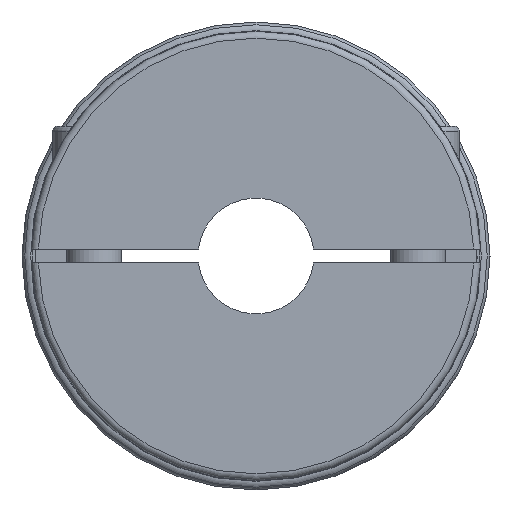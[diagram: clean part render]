
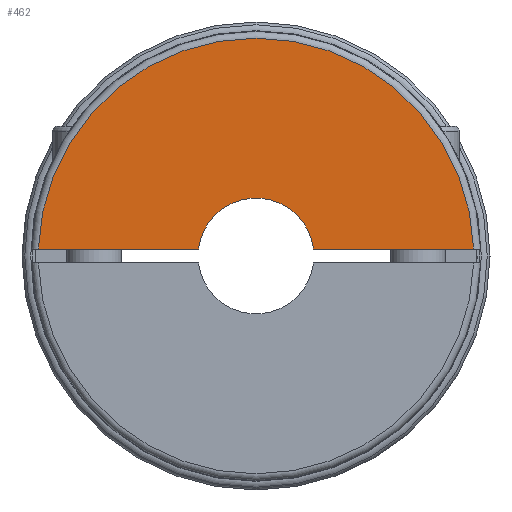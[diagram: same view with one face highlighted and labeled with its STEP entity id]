
A CAD part, left-side view. The second image highlights one B-rep face of the part: STEP entity #462.
In plain terms, the highlighted planar face has unit normal (-1, 0, 0).
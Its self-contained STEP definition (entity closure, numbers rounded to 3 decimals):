
#462 = ADVANCED_FACE( '', ( #1125 ), #1126, .T. );
#1125 = FACE_OUTER_BOUND( '', #2012, .T. );
#1126 = PLANE( '', #2013 );
#2012 = EDGE_LOOP( '', ( #3221, #3222, #3223, #3224 ) );
#2013 = AXIS2_PLACEMENT_3D( '', #3225, #3226, #3227 );
#3221 = ORIENTED_EDGE( '', *, *, #4364, .F. );
#3222 = ORIENTED_EDGE( '', *, *, #4544, .T. );
#3223 = ORIENTED_EDGE( '', *, *, #4545, .F. );
#3224 = ORIENTED_EDGE( '', *, *, #4285, .T. );
#3225 = CARTESIAN_POINT( '', ( -1.5, 0., 12. ) );
#3226 = DIRECTION( '', ( -1., 0., 0. ) );
#3227 = DIRECTION( '', ( 0., 0., 1. ) );
#4285 = EDGE_CURVE( '', #4942, #4946, #4948, .T. );
#4364 = EDGE_CURVE( '', #5078, #4946, #5080, .T. );
#4544 = EDGE_CURVE( '', #5078, #5355, #5356, .T. );
#4545 = EDGE_CURVE( '', #4942, #5355, #5357, .T. );
#4942 = VERTEX_POINT( '', #5860 );
#4946 = VERTEX_POINT( '', #5877 );
#4948 = CIRCLE( '', #5892, 47. );
#5078 = VERTEX_POINT( '', #6123 );
#5080 = LINE( '', #6126, #6127 );
#5355 = VERTEX_POINT( '', #6803 );
#5356 = CIRCLE( '', #6804, 12.5 );
#5357 = LINE( '', #6805, #6806 );
#5860 = CARTESIAN_POINT( '', ( -1.5, -46.976, 1.5 ) );
#5877 = CARTESIAN_POINT( '', ( -1.5, 46.976, 1.5 ) );
#5892 = AXIS2_PLACEMENT_3D( '', #7668, #7669, #7670 );
#6123 = CARTESIAN_POINT( '', ( -1.5, 12.41, 1.5 ) );
#6126 = CARTESIAN_POINT( '', ( -1.5, 0., 1.5 ) );
#6127 = VECTOR( '', #7777, 1000. );
#6803 = CARTESIAN_POINT( '', ( -1.5, -12.41, 1.5 ) );
#6804 = AXIS2_PLACEMENT_3D( '', #8024, #8025, #8026 );
#6805 = CARTESIAN_POINT( '', ( -1.5, 0., 1.5 ) );
#6806 = VECTOR( '', #8027, 1000. );
#7668 = CARTESIAN_POINT( '', ( -1.5, 0., 0. ) );
#7669 = DIRECTION( '', ( -1., 0., 0. ) );
#7670 = DIRECTION( '', ( 0., 0., 1. ) );
#7777 = DIRECTION( '', ( 0., 1., 0. ) );
#8024 = CARTESIAN_POINT( '', ( -1.5, 0., 0. ) );
#8025 = DIRECTION( '', ( 1., 0., 0. ) );
#8026 = DIRECTION( '', ( 0., 1., 0. ) );
#8027 = DIRECTION( '', ( 0., 1., 0. ) );
